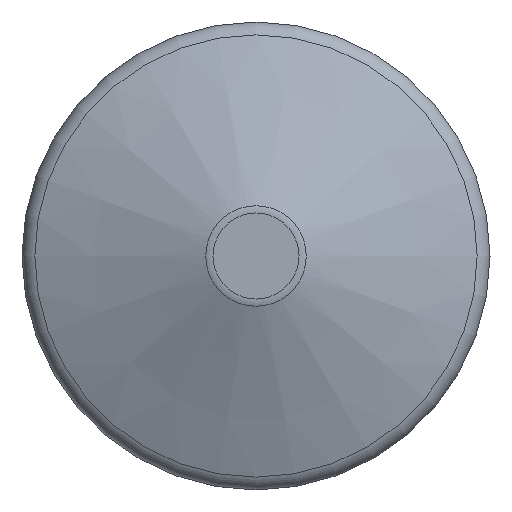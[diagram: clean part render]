
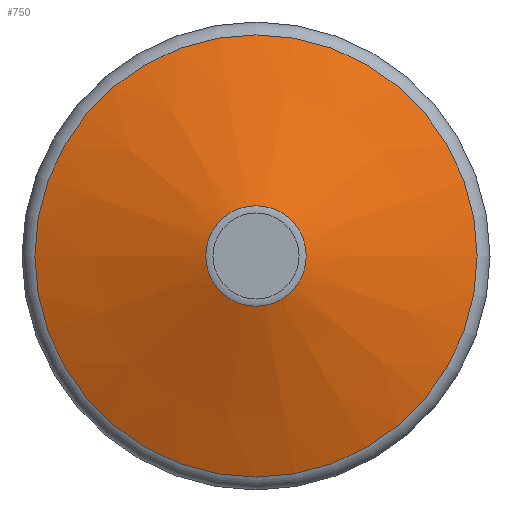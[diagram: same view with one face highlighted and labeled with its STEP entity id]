
A CAD part, left-side view. The second image highlights one B-rep face of the part: STEP entity #750.
In plain terms, the highlighted conical face has half-angle 69.019 degrees and reference radius 10.148 mm.
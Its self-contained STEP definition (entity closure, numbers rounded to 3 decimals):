
#91=FACE_BOUND('',#212,.T.);
#146=FACE_OUTER_BOUND('',#211,.T.);
#211=EDGE_LOOP('',(#530));
#212=EDGE_LOOP('',(#531));
#325=CIRCLE('',#825,3.759);
#326=CIRCLE('',#827,16.537);
#384=VERTEX_POINT('',#1209);
#385=VERTEX_POINT('',#1212);
#452=EDGE_CURVE('',#384,#384,#325,.T.);
#453=EDGE_CURVE('',#385,#385,#326,.T.);
#530=ORIENTED_EDGE('',*,*,#453,.F.);
#531=ORIENTED_EDGE('',*,*,#452,.T.);
#676=CONICAL_SURFACE('',#826,10.148,69.019);
#750=ADVANCED_FACE('',(#146,#91),#676,.T.);
#825=AXIS2_PLACEMENT_3D('',#1210,#960,#961);
#826=AXIS2_PLACEMENT_3D('',#1211,#962,#963);
#827=AXIS2_PLACEMENT_3D('',#1213,#964,#965);
#960=DIRECTION('center_axis',(1.,0.,0.));
#961=DIRECTION('ref_axis',(0.,1.,0.));
#962=DIRECTION('center_axis',(1.,0.,0.));
#963=DIRECTION('ref_axis',(0.,1.,0.));
#964=DIRECTION('center_axis',(1.,0.,0.));
#965=DIRECTION('ref_axis',(0.,1.,0.));
#1209=CARTESIAN_POINT('',(0.099,3.759,0.));
#1210=CARTESIAN_POINT('Origin',(0.099,0.,0.));
#1211=CARTESIAN_POINT('Origin',(2.549,0.,0.));
#1212=CARTESIAN_POINT('',(4.999,16.537,0.));
#1213=CARTESIAN_POINT('Origin',(4.999,0.,0.));
